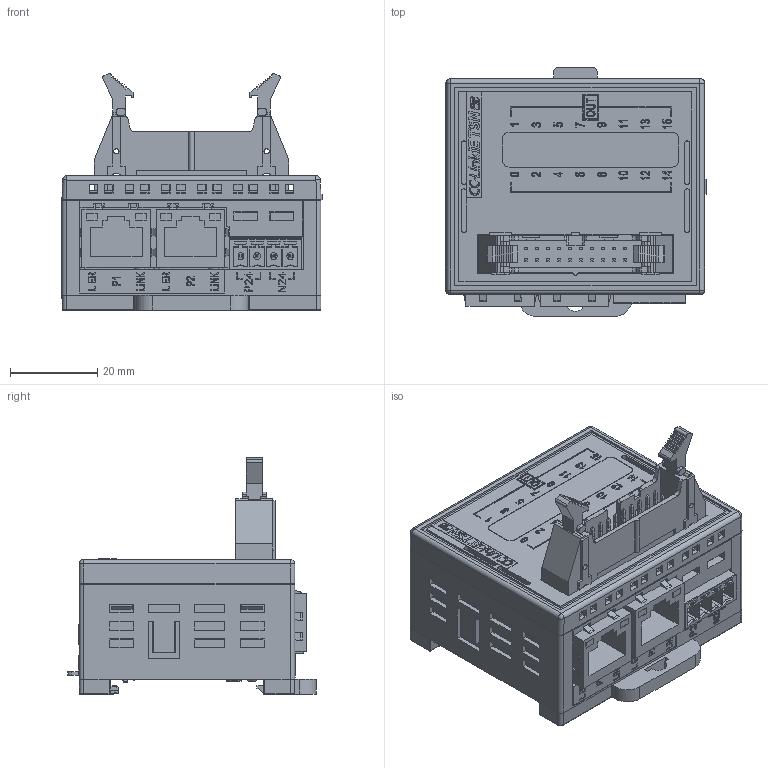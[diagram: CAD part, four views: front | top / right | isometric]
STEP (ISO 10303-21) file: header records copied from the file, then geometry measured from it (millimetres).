
FILE_DESCRIPTION((''),'2;1');
FILE_NAME('CTCMP0F','2026-05-11T14:31:43',('gijyu181'),(''),'CREO PARAMETRIC BY PTC INC, 2018050','CREO PARAMETRIC BY PTC INC, 2018050','');
FILE_SCHEMA(('CONFIG_CONTROL_DESIGN','SHAPE_APPEARANCE_LAYERS_GROUPS'));
Products named in the file (1): CTCMP0F
Bounding box: 59.75 x 57.15 x 54.5 mm (x, y, z)
Volume: 70720.8 mm3; surface area: 38764.4 mm2
Topology: 1 solids, 15 shells, 6235 faces, 17229 edges, 11333 vertices
Faces by surface type: plane 4807, cylinder 674, extrusion 640, sphere 44, torus 26, bspline 24, cone 20
Entity records: 248549 total; most frequent: CARTESIAN_POINT 43760, ORIENTED_EDGE 34430, DIRECTION 28767, EDGE_CURVE 17219, VECTOR 14887, LINE 14247, VERTEX_POINT 11333, PRESENTATION_STYLE_ASSIGNMENT 9420
